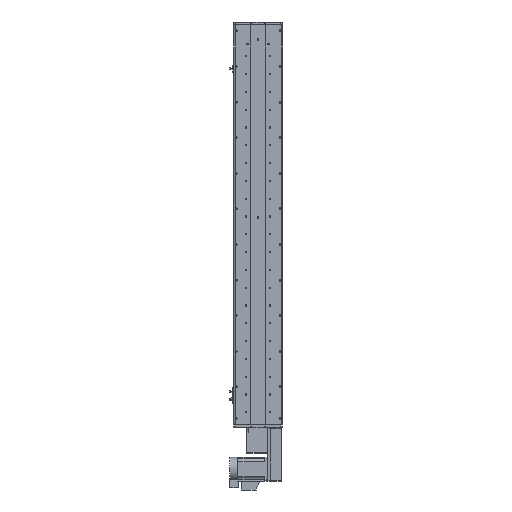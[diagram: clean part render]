
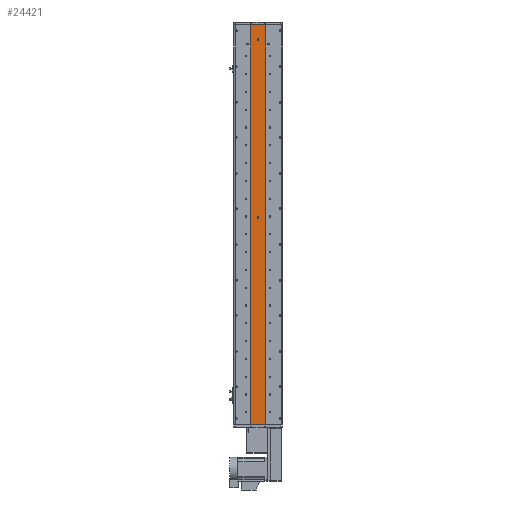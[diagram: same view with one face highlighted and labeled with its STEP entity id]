
A CAD part, front view. The second image highlights one B-rep face of the part: STEP entity #24421.
In plain terms, the highlighted planar face has unit normal (0, -1, 0).
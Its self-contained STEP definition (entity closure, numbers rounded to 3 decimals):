
#159 = EDGE_CURVE ( 'NONE', #45667, #14021, #33554, .T. ) ;
#658 = CARTESIAN_POINT ( 'NONE',  ( -25., 1., -673.5 ) ) ;
#853 = CARTESIAN_POINT ( 'NONE',  ( 25., 1., 673.5 ) ) ;
#1810 = ORIENTED_EDGE ( 'NONE', *, *, #7476, .F. ) ;
#1839 = DIRECTION ( 'NONE',  ( 0., 1., 0. ) ) ;
#7476 = EDGE_CURVE ( 'NONE', #47166, #45667, #40308, .T. ) ;
#8666 = AXIS2_PLACEMENT_3D ( 'NONE', #11137, #46842, #16289 ) ;
#9290 = FACE_BOUND ( 'NONE', #46406, .T. ) ;
#10488 = DIRECTION ( 'NONE',  ( 1., 0., 0. ) ) ;
#11137 = CARTESIAN_POINT ( 'NONE',  ( 0., 1., 23.5 ) ) ;
#12407 = DIRECTION ( 'NONE',  ( 0., -1., 0. ) ) ;
#12843 = ORIENTED_EDGE ( 'NONE', *, *, #51112, .F. ) ;
#13980 = EDGE_CURVE ( 'NONE', #40535, #14021, #33449, .T. ) ;
#14021 = VERTEX_POINT ( 'NONE', #56532 ) ;
#14130 = CARTESIAN_POINT ( 'NONE',  ( 0., 1., 20.5 ) ) ;
#14674 = ORIENTED_EDGE ( 'NONE', *, *, #13980, .T. ) ;
#16289 = DIRECTION ( 'NONE',  ( 0., 0., -1. ) ) ;
#16591 = CIRCLE ( 'NONE', #37327, 3. ) ;
#16715 = CARTESIAN_POINT ( 'NONE',  ( 0., 1., 623.5 ) ) ;
#19512 = DIRECTION ( 'NONE',  ( 0., -1., 0. ) ) ;
#19903 = VECTOR ( 'NONE', #10488, 1000. ) ;
#20235 = VERTEX_POINT ( 'NONE', #52690 ) ;
#20539 = CARTESIAN_POINT ( 'NONE',  ( 25., 1., -673.5 ) ) ;
#21704 = CARTESIAN_POINT ( 'NONE',  ( 0., 1., 620.5 ) ) ;
#21847 = DIRECTION ( 'NONE',  ( 0., 0., -1. ) ) ;
#22068 = CARTESIAN_POINT ( 'NONE',  ( 25., 1., 673.5 ) ) ;
#22772 = DIRECTION ( 'NONE',  ( 0., 0., -1. ) ) ;
#22974 = AXIS2_PLACEMENT_3D ( 'NONE', #50069, #19512, #55254 ) ;
#23567 = AXIS2_PLACEMENT_3D ( 'NONE', #16715, #52436, #21847 ) ;
#24421 = ADVANCED_FACE ( 'NONE', ( #50038, #9290, #36452 ), #42390, .F. ) ;
#25424 = VERTEX_POINT ( 'NONE', #21704 ) ;
#26205 = DIRECTION ( 'NONE',  ( 0., 0., -1. ) ) ;
#29886 = EDGE_CURVE ( 'NONE', #40862, #20235, #32847, .T. ) ;
#32712 = CARTESIAN_POINT ( 'NONE',  ( 25., 1., 673.5 ) ) ;
#32847 = CIRCLE ( 'NONE', #8666, 3. ) ;
#33006 = EDGE_CURVE ( 'NONE', #47166, #40535, #47133, .T. ) ;
#33449 = LINE ( 'NONE', #20539, #19903 ) ;
#33554 = LINE ( 'NONE', #853, #45554 ) ;
#34086 = ORIENTED_EDGE ( 'NONE', *, *, #47139, .F. ) ;
#34754 = EDGE_CURVE ( 'NONE', #25424, #56875, #60534, .T. ) ;
#35624 = ORIENTED_EDGE ( 'NONE', *, *, #29886, .F. ) ;
#36452 = FACE_OUTER_BOUND ( 'NONE', #51592, .T. ) ;
#37020 = CARTESIAN_POINT ( 'NONE',  ( 25., 1., 673.5 ) ) ;
#37327 = AXIS2_PLACEMENT_3D ( 'NONE', #42957, #12407, #48107 ) ;
#37452 = DIRECTION ( 'NONE',  ( 0., 0., 1. ) ) ;
#38032 = ORIENTED_EDGE ( 'NONE', *, *, #159, .F. ) ;
#40308 = LINE ( 'NONE', #37020, #65829 ) ;
#40347 = AXIS2_PLACEMENT_3D ( 'NONE', #22068, #1839, #37452 ) ;
#40535 = VERTEX_POINT ( 'NONE', #658 ) ;
#40862 = VERTEX_POINT ( 'NONE', #14130 ) ;
#42154 = DIRECTION ( 'NONE',  ( 1., 0., 0. ) ) ;
#42390 = PLANE ( 'NONE',  #40347 ) ;
#42957 = CARTESIAN_POINT ( 'NONE',  ( 0., 1., 23.5 ) ) ;
#44359 = CARTESIAN_POINT ( 'NONE',  ( 0., 1., 626.5 ) ) ;
#45549 = VECTOR ( 'NONE', #22772, 1000. ) ;
#45554 = VECTOR ( 'NONE', #26205, 1000. ) ;
#45667 = VERTEX_POINT ( 'NONE', #32712 ) ;
#46406 = EDGE_LOOP ( 'NONE', ( #61169, #34086 ) ) ;
#46675 = CIRCLE ( 'NONE', #22974, 3. ) ;
#46842 = DIRECTION ( 'NONE',  ( 0., -1., 0. ) ) ;
#47133 = LINE ( 'NONE', #53357, #45549 ) ;
#47139 = EDGE_CURVE ( 'NONE', #56875, #25424, #46675, .T. ) ;
#47166 = VERTEX_POINT ( 'NONE', #60345 ) ;
#48107 = DIRECTION ( 'NONE',  ( 0., 0., -1. ) ) ;
#50038 = FACE_BOUND ( 'NONE', #64314, .T. ) ;
#50069 = CARTESIAN_POINT ( 'NONE',  ( 0., 1., 623.5 ) ) ;
#51112 = EDGE_CURVE ( 'NONE', #20235, #40862, #16591, .T. ) ;
#51592 = EDGE_LOOP ( 'NONE', ( #14674, #38032, #1810, #59951 ) ) ;
#52436 = DIRECTION ( 'NONE',  ( 0., -1., 0. ) ) ;
#52690 = CARTESIAN_POINT ( 'NONE',  ( 0., 1., 26.5 ) ) ;
#53357 = CARTESIAN_POINT ( 'NONE',  ( -25., 1., 673.5 ) ) ;
#55254 = DIRECTION ( 'NONE',  ( 0., 0., -1. ) ) ;
#56532 = CARTESIAN_POINT ( 'NONE',  ( 25., 1., -673.5 ) ) ;
#56875 = VERTEX_POINT ( 'NONE', #44359 ) ;
#59951 = ORIENTED_EDGE ( 'NONE', *, *, #33006, .T. ) ;
#60345 = CARTESIAN_POINT ( 'NONE',  ( -25., 1., 673.5 ) ) ;
#60534 = CIRCLE ( 'NONE', #23567, 3. ) ;
#61169 = ORIENTED_EDGE ( 'NONE', *, *, #34754, .F. ) ;
#64314 = EDGE_LOOP ( 'NONE', ( #35624, #12843 ) ) ;
#65829 = VECTOR ( 'NONE', #42154, 1000. ) ;
